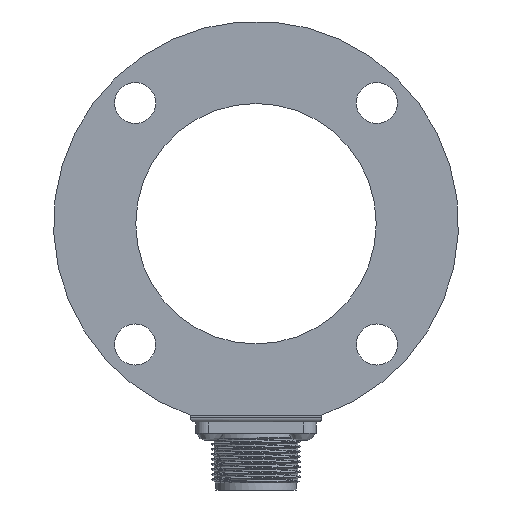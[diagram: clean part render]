
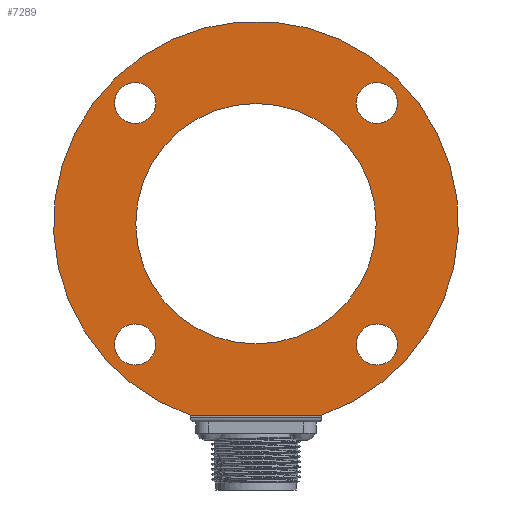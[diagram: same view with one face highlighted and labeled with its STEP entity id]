
A CAD part, front view. The second image highlights one B-rep face of the part: STEP entity #7289.
In plain terms, the highlighted planar face has unit normal (0, -1, 0).
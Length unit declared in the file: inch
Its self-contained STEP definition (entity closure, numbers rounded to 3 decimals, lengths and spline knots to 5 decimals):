
#267 = CARTESIAN_POINT ( 'NONE',  ( 1.19324, 0., -1.19324 ) ) ;
#348 = VERTEX_POINT ( 'NONE', #3732 ) ;
#405 = DIRECTION ( 'NONE',  ( 0., 0., 1. ) ) ;
#550 = CARTESIAN_POINT ( 'NONE',  ( -0.65, 0., -1.89143 ) ) ;
#799 = AXIS2_PLACEMENT_3D ( 'NONE', #6542, #2400, #7227 ) ;
#960 = DIRECTION ( 'NONE',  ( 0., 0., 1. ) ) ;
#965 = EDGE_CURVE ( 'NONE', #2739, #7405, #6380, .T. ) ;
#1067 = AXIS2_PLACEMENT_3D ( 'NONE', #2241, #7072, #2942 ) ;
#1079 = PLANE ( 'NONE',  #4952 ) ;
#1219 = FACE_BOUND ( 'NONE', #3618, .T. ) ;
#1425 = EDGE_LOOP ( 'NONE', ( #5670 ) ) ;
#1446 = EDGE_LOOP ( 'NONE', ( #8026 ) ) ;
#1537 = VERTEX_POINT ( 'NONE', #7087 ) ;
#1595 = ORIENTED_EDGE ( 'NONE', *, *, #965, .T. ) ;
#1627 = CARTESIAN_POINT ( 'NONE',  ( 1.19324, 0., -0.99024 ) ) ;
#1653 = EDGE_CURVE ( 'NONE', #1537, #1537, #1834, .T. ) ;
#1755 = ORIENTED_EDGE ( 'NONE', *, *, #7199, .T. ) ;
#1834 = CIRCLE ( 'NONE', #1067, 0.203 ) ;
#1850 = CIRCLE ( 'NONE', #7678, 0.203 ) ;
#1986 = CARTESIAN_POINT ( 'NONE',  ( 0.65, 0., -1.89143 ) ) ;
#2211 = DIRECTION ( 'NONE',  ( 0., 1., 0. ) ) ;
#2241 = CARTESIAN_POINT ( 'NONE',  ( -1.19324, 0., 1.19324 ) ) ;
#2400 = DIRECTION ( 'NONE',  ( 0., 1., 0. ) ) ;
#2611 = VERTEX_POINT ( 'NONE', #4396 ) ;
#2628 = EDGE_LOOP ( 'NONE', ( #5457 ) ) ;
#2739 = VERTEX_POINT ( 'NONE', #5999 ) ;
#2942 = DIRECTION ( 'NONE',  ( 0., 0., 1. ) ) ;
#3069 = FACE_BOUND ( 'NONE', #1446, .T. ) ;
#3166 = CIRCLE ( 'NONE', #4319, 2. ) ;
#3270 = FACE_BOUND ( 'NONE', #2628, .T. ) ;
#3413 = EDGE_LOOP ( 'NONE', ( #1755 ) ) ;
#3515 = CARTESIAN_POINT ( 'NONE',  ( -1.19324, 0., -1.19324 ) ) ;
#3520 = AXIS2_PLACEMENT_3D ( 'NONE', #267, #5087, #960 ) ;
#3600 = CIRCLE ( 'NONE', #4194, 0.203 ) ;
#3618 = EDGE_LOOP ( 'NONE', ( #8256 ) ) ;
#3732 = CARTESIAN_POINT ( 'NONE',  ( 1.19324, 0., 1.39624 ) ) ;
#3843 = CARTESIAN_POINT ( 'NONE',  ( -1.18775, 0., 0. ) ) ;
#3921 = CIRCLE ( 'NONE', #799, 1.18775 ) ;
#4105 = CIRCLE ( 'NONE', #3520, 0.203 ) ;
#4108 = VERTEX_POINT ( 'NONE', #1627 ) ;
#4194 = AXIS2_PLACEMENT_3D ( 'NONE', #3515, #8343, #4200 ) ;
#4200 = DIRECTION ( 'NONE',  ( 0., 0., 1. ) ) ;
#4319 = AXIS2_PLACEMENT_3D ( 'NONE', #6346, #2211, #7039 ) ;
#4396 = CARTESIAN_POINT ( 'NONE',  ( -1.19324, 0., -0.99024 ) ) ;
#4536 = DIRECTION ( 'NONE',  ( 0., 1., 0. ) ) ;
#4541 = DIRECTION ( 'NONE',  ( 0., 0., -1. ) ) ;
#4548 = VECTOR ( 'NONE', #4690, 39.37008 ) ;
#4690 = DIRECTION ( 'NONE',  ( 1., 0., 0. ) ) ;
#4889 = FACE_OUTER_BOUND ( 'NONE', #5785, .T. ) ;
#4952 = AXIS2_PLACEMENT_3D ( 'NONE', #3843, #8679, #4541 ) ;
#5087 = DIRECTION ( 'NONE',  ( 0., 1., 0. ) ) ;
#5092 = CARTESIAN_POINT ( 'NONE',  ( 0., 0., 1.18775 ) ) ;
#5457 = ORIENTED_EDGE ( 'NONE', *, *, #1653, .T. ) ;
#5502 = EDGE_CURVE ( 'NONE', #4108, #4108, #4105, .T. ) ;
#5670 = ORIENTED_EDGE ( 'NONE', *, *, #8634, .T. ) ;
#5785 = EDGE_LOOP ( 'NONE', ( #1595, #8665 ) ) ;
#5999 = CARTESIAN_POINT ( 'NONE',  ( -0.65, 0., -1.89143 ) ) ;
#6346 = CARTESIAN_POINT ( 'NONE',  ( 0., 0., 0. ) ) ;
#6380 = LINE ( 'NONE', #550, #4548 ) ;
#6542 = CARTESIAN_POINT ( 'NONE',  ( 0., 0., 0. ) ) ;
#6726 = FACE_BOUND ( 'NONE', #1425, .T. ) ;
#6845 = EDGE_CURVE ( 'NONE', #2611, #2611, #3600, .T. ) ;
#7039 = DIRECTION ( 'NONE',  ( 0., 0., 1. ) ) ;
#7072 = DIRECTION ( 'NONE',  ( 0., 1., 0. ) ) ;
#7087 = CARTESIAN_POINT ( 'NONE',  ( -1.19324, 0., 1.39624 ) ) ;
#7199 = EDGE_CURVE ( 'NONE', #7917, #7917, #3921, .T. ) ;
#7227 = DIRECTION ( 'NONE',  ( 0., 0., 1. ) ) ;
#7289 = ADVANCED_FACE ( 'NONE', ( #3069, #3270, #6726, #4889, #1219, #8351 ), #1079, .T. ) ;
#7405 = VERTEX_POINT ( 'NONE', #1986 ) ;
#7677 = EDGE_CURVE ( 'NONE', #2739, #7405, #3166, .T. ) ;
#7678 = AXIS2_PLACEMENT_3D ( 'NONE', #8673, #4536, #405 ) ;
#7917 = VERTEX_POINT ( 'NONE', #5092 ) ;
#8026 = ORIENTED_EDGE ( 'NONE', *, *, #6845, .T. ) ;
#8256 = ORIENTED_EDGE ( 'NONE', *, *, #5502, .T. ) ;
#8343 = DIRECTION ( 'NONE',  ( 0., 1., 0. ) ) ;
#8351 = FACE_BOUND ( 'NONE', #3413, .T. ) ;
#8634 = EDGE_CURVE ( 'NONE', #348, #348, #1850, .T. ) ;
#8665 = ORIENTED_EDGE ( 'NONE', *, *, #7677, .F. ) ;
#8673 = CARTESIAN_POINT ( 'NONE',  ( 1.19324, 0., 1.19324 ) ) ;
#8679 = DIRECTION ( 'NONE',  ( 0., -1., 0. ) ) ;
